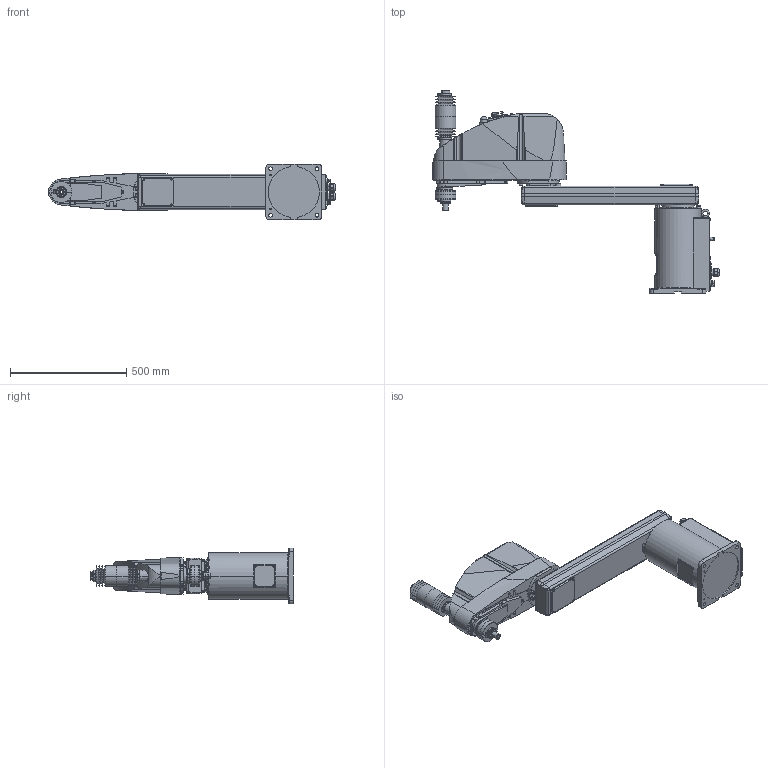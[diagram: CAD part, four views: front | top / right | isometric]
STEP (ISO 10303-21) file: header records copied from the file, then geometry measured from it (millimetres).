
FILE_DESCRIPTION( ( '' ), '1' );
FILE_NAME( '//expscmdclustefs.cadenas.external/client_exchange/iodir/jobs/output/wkb51489724_no0/STEP/G20_A01C_2_03.stp', '2012-11-22T08:46:48', ( '' ), ( '' ), ' ', ' ', ' ' );
FILE_SCHEMA( ( 'CONFIG_CONTROL_DESIGN' ) );
Length unit declared in the file: millimetre
Products named in the file (8): 1; 2; 3; 4; 5; 6; 7; 8
Bounding box: 1234.5 x 870.5 x 240 mm (x, y, z)
Volume: 43489257 mm3; surface area: 1678835.3 mm2
Topology: 8 solids, 9 shells, 2023 faces, 4917 edges, 3185 vertices
Faces by surface type: plane 1092, cylinder 655, cone 234, torus 41, sphere 1
Entity records: 61832 total; most frequent: CARTESIAN_POINT 12672, DIRECTION 10502, ORIENTED_EDGE 9826, EDGE_CURVE 4913, AXIS2_PLACEMENT_3D 3729, VERTEX_POINT 3185, LINE 3044, VECTOR 3044
